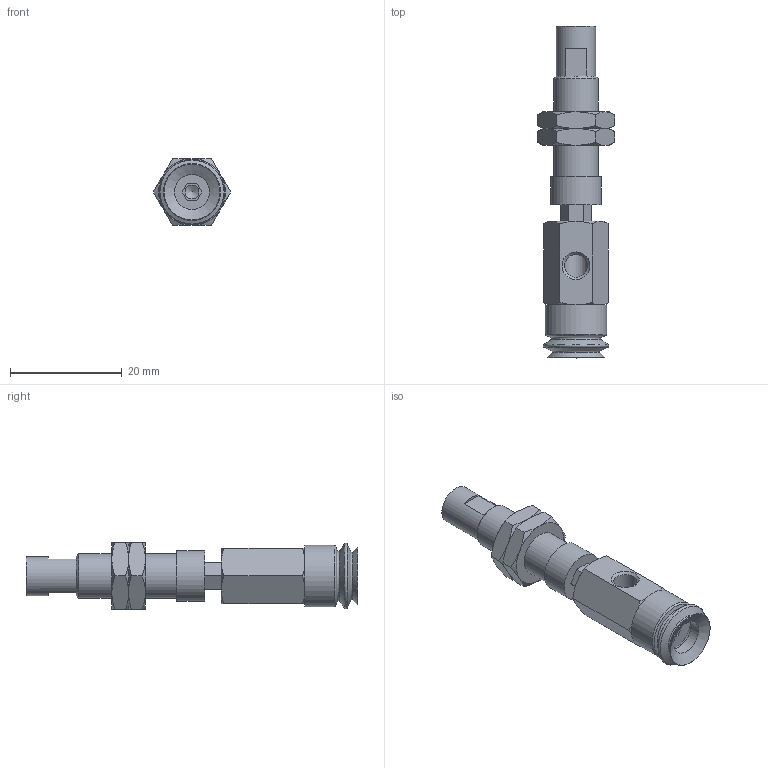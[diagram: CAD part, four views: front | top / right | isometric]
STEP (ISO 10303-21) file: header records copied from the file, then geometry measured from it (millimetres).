
FILE_DESCRIPTION(('STEP AP203'),'1');
FILE_NAME('.stp','2025-04-24T06:10:15',(' '),(' '),'Spatial InterOp 3D',' ',' ');
FILE_SCHEMA(('CONFIG_CONTROL_DESIGN'));
Length unit declared in the file: millimetre
Products named in the file (7): BNABPJYH-10-3-※; Adapter-10-NAPJ; CONNECTOR_H-10-3; NAPJH-10-3-NUT; NAPJTH-10-3-FBODY; NAPJTH-10-3-MBODY; BPJG-10-※
Assembly tree (7 placements, depth 2):
  BNABPJYH-10-3-※
    Adapter-10-NAPJ
    CONNECTOR_H-10-3
    NAPJH-10-3-NUT  x2
    NAPJTH-10-3-FBODY
    NAPJTH-10-3-MBODY
    BPJG-10-※
Bounding box: 13.86 x 59.5 x 12 mm (x, y, z)
Volume: 3917.1 mm3; surface area: 4455.2 mm2
Topology: 7 solids, 7 shells, 149 faces, 327 edges, 200 vertices
Faces by surface type: plane 70, cone 56, cylinder 16, torus 7
Full cylindrical faces by diameter (mm): 2.5 x1, 4.134 x3, 4.6 x1, 5 x2, 6.266 x1, 7 x1, 7.188 x2, 7.8 x1, 8 x2, 9 x1, 11 x1
Entity records: 3900 total; most frequent: CARTESIAN_POINT 1011, DIRECTION 528, ORIENTED_EDGE 458, EDGE_CURVE 229, AXIS2_PLACEMENT_3D 217, EDGE_LOOP 182, VERTEX_POINT 162, FACE_OUTER_BOUND 148
